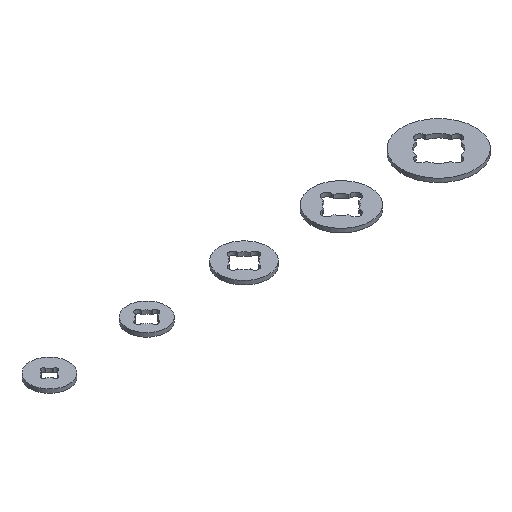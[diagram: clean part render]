
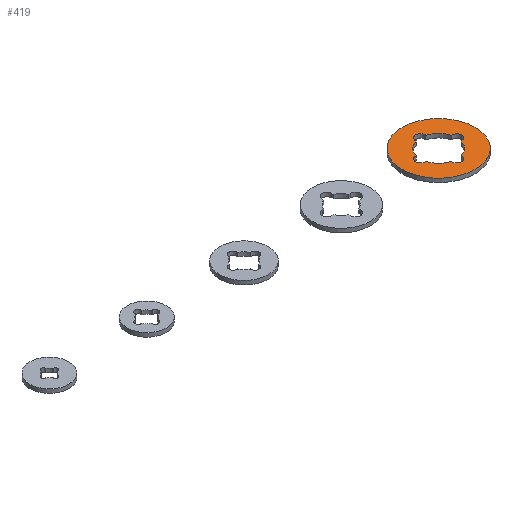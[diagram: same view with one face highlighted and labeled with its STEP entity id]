
A CAD part, isometric view. The second image highlights one B-rep face of the part: STEP entity #419.
In plain terms, the highlighted planar face has unit normal (0, 0, 1).
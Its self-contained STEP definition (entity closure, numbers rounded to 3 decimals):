
#42 = CARTESIAN_POINT ( 'NONE',  ( 0.991, -3.617, 0.8 ) ) ;
#52 = EDGE_CURVE ( 'NONE', #2605, #1581, #2609, .T. ) ;
#82 = ORIENTED_EDGE ( 'NONE', *, *, #1552, .F. ) ;
#98 = DIRECTION ( 'NONE',  ( 1., 0., 0. ) ) ;
#158 = VERTEX_POINT ( 'NONE', #1632 ) ;
#163 = ORIENTED_EDGE ( 'NONE', *, *, #229, .T. ) ;
#229 = EDGE_CURVE ( 'NONE', #2401, #1093, #3285, .T. ) ;
#237 = CIRCLE ( 'NONE', #1231, 1. ) ;
#247 = EDGE_CURVE ( 'NONE', #2046, #2605, #1752, .T. ) ;
#303 = ORIENTED_EDGE ( 'NONE', *, *, #2562, .F. ) ;
#305 = DIRECTION ( 'NONE',  ( 1., 0., 0. ) ) ;
#358 = VERTEX_POINT ( 'NONE', #3144 ) ;
#387 = DIRECTION ( 'NONE',  ( 1., 0., 0. ) ) ;
#405 = CIRCLE ( 'NONE', #2755, 3.75 ) ;
#413 = ORIENTED_EDGE ( 'NONE', *, *, #3477, .F. ) ;
#419 = ADVANCED_FACE ( 'NONE', ( #1277, #2101 ), #2945, .T. ) ;
#444 = CARTESIAN_POINT ( 'NONE',  ( 0., 0., 0.8 ) ) ;
#478 = DIRECTION ( 'NONE',  ( 0., 0., 1. ) ) ;
#549 = DIRECTION ( 'NONE',  ( 1., 0., 0. ) ) ;
#569 = DIRECTION ( 'NONE',  ( 0., 0., 1. ) ) ;
#594 = CARTESIAN_POINT ( 'NONE',  ( 0., 3.75, 0.8 ) ) ;
#598 = EDGE_CURVE ( 'NONE', #2097, #2046, #2291, .T. ) ;
#620 = DIRECTION ( 'NONE',  ( 1., 0., 0. ) ) ;
#681 = CARTESIAN_POINT ( 'NONE',  ( 3.617, 0.991, 0.8 ) ) ;
#691 = ORIENTED_EDGE ( 'NONE', *, *, #1096, .F. ) ;
#705 = AXIS2_PLACEMENT_3D ( 'NONE', #3070, #2196, #1181 ) ;
#711 = AXIS2_PLACEMENT_3D ( 'NONE', #2762, #3328, #305 ) ;
#716 = CARTESIAN_POINT ( 'NONE',  ( 3.75, 0., 0.8 ) ) ;
#840 = ORIENTED_EDGE ( 'NONE', *, *, #2282, .F. ) ;
#860 = ORIENTED_EDGE ( 'NONE', *, *, #1301, .F. ) ;
#901 = ORIENTED_EDGE ( 'NONE', *, *, #1904, .T. ) ;
#906 = DIRECTION ( 'NONE',  ( 1., 0., 0. ) ) ;
#911 = CARTESIAN_POINT ( 'NONE',  ( 7.5, 0., 0.8 ) ) ;
#934 = CIRCLE ( 'NONE', #3444, 3.75 ) ;
#946 = CARTESIAN_POINT ( 'NONE',  ( 0., 0., 0.8 ) ) ;
#958 = DIRECTION ( 'NONE',  ( 0., 0., 1. ) ) ;
#974 = DIRECTION ( 'NONE',  ( 1., 0., 0. ) ) ;
#1029 = ORIENTED_EDGE ( 'NONE', *, *, #1620, .F. ) ;
#1058 = AXIS2_PLACEMENT_3D ( 'NONE', #716, #1274, #974 ) ;
#1093 = VERTEX_POINT ( 'NONE', #911 ) ;
#1096 = EDGE_CURVE ( 'NONE', #158, #1318, #405, .T. ) ;
#1181 = DIRECTION ( 'NONE',  ( 1., 0., 0. ) ) ;
#1189 = DIRECTION ( 'NONE',  ( 1., 0., 0. ) ) ;
#1193 = ORIENTED_EDGE ( 'NONE', *, *, #2612, .F. ) ;
#1231 = AXIS2_PLACEMENT_3D ( 'NONE', #1786, #1256, #3432 ) ;
#1237 = AXIS2_PLACEMENT_3D ( 'NONE', #1452, #3008, #2230 ) ;
#1256 = DIRECTION ( 'NONE',  ( 0., 0., 1. ) ) ;
#1274 = DIRECTION ( 'NONE',  ( 0., 0., 1. ) ) ;
#1277 = FACE_BOUND ( 'NONE', #3434, .T. ) ;
#1287 = CIRCLE ( 'NONE', #1740, 1. ) ;
#1301 = EDGE_CURVE ( 'NONE', #1581, #3038, #934, .T. ) ;
#1318 = VERTEX_POINT ( 'NONE', #3458 ) ;
#1332 = ORIENTED_EDGE ( 'NONE', *, *, #3402, .F. ) ;
#1430 = CARTESIAN_POINT ( 'NONE',  ( 3.617, -0.991, 0.8 ) ) ;
#1452 = CARTESIAN_POINT ( 'NONE',  ( 0., -3.75, 0.8 ) ) ;
#1453 = AXIS2_PLACEMENT_3D ( 'NONE', #3407, #958, #1189 ) ;
#1454 = CARTESIAN_POINT ( 'NONE',  ( 0., -3.75, 0.8 ) ) ;
#1491 = ORIENTED_EDGE ( 'NONE', *, *, #598, .F. ) ;
#1552 = EDGE_CURVE ( 'NONE', #3232, #3303, #3261, .T. ) ;
#1581 = VERTEX_POINT ( 'NONE', #681 ) ;
#1620 = EDGE_CURVE ( 'NONE', #358, #3232, #2069, .T. ) ;
#1631 = ORIENTED_EDGE ( 'NONE', *, *, #2549, .F. ) ;
#1632 = CARTESIAN_POINT ( 'NONE',  ( -3.617, -0.991, 0.8 ) ) ;
#1693 = CARTESIAN_POINT ( 'NONE',  ( -0.991, 3.617, 0.8 ) ) ;
#1740 = AXIS2_PLACEMENT_3D ( 'NONE', #2499, #569, #1915 ) ;
#1747 = CARTESIAN_POINT ( 'NONE',  ( 1., 3.75, 0.8 ) ) ;
#1752 = CIRCLE ( 'NONE', #2323, 3.75 ) ;
#1786 = CARTESIAN_POINT ( 'NONE',  ( 0., -3.75, 0.8 ) ) ;
#1843 = DIRECTION ( 'NONE',  ( 0., 0., 1. ) ) ;
#1904 = EDGE_CURVE ( 'NONE', #1093, #2401, #2414, .T. ) ;
#1915 = DIRECTION ( 'NONE',  ( 1., 0., 0. ) ) ;
#1916 = CARTESIAN_POINT ( 'NONE',  ( 0.991, 3.617, 0.8 ) ) ;
#1961 = AXIS2_PLACEMENT_3D ( 'NONE', #594, #3040, #387 ) ;
#2000 = ORIENTED_EDGE ( 'NONE', *, *, #247, .F. ) ;
#2030 = EDGE_LOOP ( 'NONE', ( #163, #901 ) ) ;
#2046 = VERTEX_POINT ( 'NONE', #42 ) ;
#2058 = DIRECTION ( 'NONE',  ( 0., 0., 1. ) ) ;
#2069 = CIRCLE ( 'NONE', #1453, 1. ) ;
#2097 = VERTEX_POINT ( 'NONE', #2474 ) ;
#2101 = FACE_OUTER_BOUND ( 'NONE', #2030, .T. ) ;
#2125 = CIRCLE ( 'NONE', #705, 1. ) ;
#2138 = CARTESIAN_POINT ( 'NONE',  ( -7.5, 0., 0.8 ) ) ;
#2196 = DIRECTION ( 'NONE',  ( 0., 0., 1. ) ) ;
#2210 = VERTEX_POINT ( 'NONE', #2848 ) ;
#2230 = DIRECTION ( 'NONE',  ( 1., 0., 0. ) ) ;
#2282 = EDGE_CURVE ( 'NONE', #2210, #2097, #237, .T. ) ;
#2291 = CIRCLE ( 'NONE', #1237, 1. ) ;
#2323 = AXIS2_PLACEMENT_3D ( 'NONE', #3409, #2532, #906 ) ;
#2401 = VERTEX_POINT ( 'NONE', #2138 ) ;
#2414 = CIRCLE ( 'NONE', #2924, 7.5 ) ;
#2466 = ORIENTED_EDGE ( 'NONE', *, *, #52, .F. ) ;
#2474 = CARTESIAN_POINT ( 'NONE',  ( 1., -3.75, 0.8 ) ) ;
#2484 = AXIS2_PLACEMENT_3D ( 'NONE', #1454, #3340, #2803 ) ;
#2495 = AXIS2_PLACEMENT_3D ( 'NONE', #3424, #2058, #2554 ) ;
#2499 = CARTESIAN_POINT ( 'NONE',  ( -3.75, 0., 0.8 ) ) ;
#2532 = DIRECTION ( 'NONE',  ( 0., 0., 1. ) ) ;
#2539 = AXIS2_PLACEMENT_3D ( 'NONE', #3091, #2566, #98 ) ;
#2549 = EDGE_CURVE ( 'NONE', #3038, #3183, #2770, .T. ) ;
#2554 = DIRECTION ( 'NONE',  ( 1., 0., 0. ) ) ;
#2562 = EDGE_CURVE ( 'NONE', #3303, #3516, #1287, .T. ) ;
#2566 = DIRECTION ( 'NONE',  ( 0., 0., 1. ) ) ;
#2605 = VERTEX_POINT ( 'NONE', #1430 ) ;
#2609 = CIRCLE ( 'NONE', #1058, 1. ) ;
#2612 = EDGE_CURVE ( 'NONE', #3183, #358, #3339, .T. ) ;
#2648 = CIRCLE ( 'NONE', #2484, 1. ) ;
#2713 = CARTESIAN_POINT ( 'NONE',  ( -3.617, 0.991, 0.8 ) ) ;
#2749 = CARTESIAN_POINT ( 'NONE',  ( -4.75, 0., 0.8 ) ) ;
#2755 = AXIS2_PLACEMENT_3D ( 'NONE', #946, #3357, #620 ) ;
#2762 = CARTESIAN_POINT ( 'NONE',  ( 0., 3.75, 0.8 ) ) ;
#2770 = CIRCLE ( 'NONE', #1961, 1. ) ;
#2803 = DIRECTION ( 'NONE',  ( 1., 0., 0. ) ) ;
#2848 = CARTESIAN_POINT ( 'NONE',  ( -1., -3.75, 0.8 ) ) ;
#2885 = DIRECTION ( 'NONE',  ( 0., 0., 1. ) ) ;
#2899 = DIRECTION ( 'NONE',  ( 1., 0., 0. ) ) ;
#2924 = AXIS2_PLACEMENT_3D ( 'NONE', #3470, #478, #549 ) ;
#2945 = PLANE ( 'NONE',  #3348 ) ;
#3008 = DIRECTION ( 'NONE',  ( 0., 0., 1. ) ) ;
#3038 = VERTEX_POINT ( 'NONE', #1916 ) ;
#3040 = DIRECTION ( 'NONE',  ( 0., 0., 1. ) ) ;
#3070 = CARTESIAN_POINT ( 'NONE',  ( -3.75, 0., 0.8 ) ) ;
#3091 = CARTESIAN_POINT ( 'NONE',  ( 0., 0., 0.8 ) ) ;
#3144 = CARTESIAN_POINT ( 'NONE',  ( -1., 3.75, 0.8 ) ) ;
#3164 = CARTESIAN_POINT ( 'NONE',  ( 0., 0., 0.8 ) ) ;
#3174 = DIRECTION ( 'NONE',  ( 1., 0., 0. ) ) ;
#3183 = VERTEX_POINT ( 'NONE', #1747 ) ;
#3232 = VERTEX_POINT ( 'NONE', #1693 ) ;
#3261 = CIRCLE ( 'NONE', #2539, 3.75 ) ;
#3285 = CIRCLE ( 'NONE', #2495, 7.5 ) ;
#3303 = VERTEX_POINT ( 'NONE', #2713 ) ;
#3328 = DIRECTION ( 'NONE',  ( 0., 0., 1. ) ) ;
#3339 = CIRCLE ( 'NONE', #711, 1. ) ;
#3340 = DIRECTION ( 'NONE',  ( 0., 0., 1. ) ) ;
#3348 = AXIS2_PLACEMENT_3D ( 'NONE', #444, #2885, #3174 ) ;
#3357 = DIRECTION ( 'NONE',  ( 0., 0., 1. ) ) ;
#3402 = EDGE_CURVE ( 'NONE', #3516, #158, #2125, .T. ) ;
#3407 = CARTESIAN_POINT ( 'NONE',  ( 0., 3.75, 0.8 ) ) ;
#3409 = CARTESIAN_POINT ( 'NONE',  ( 0., 0., 0.8 ) ) ;
#3424 = CARTESIAN_POINT ( 'NONE',  ( 0., 0., 0.8 ) ) ;
#3432 = DIRECTION ( 'NONE',  ( 1., 0., 0. ) ) ;
#3434 = EDGE_LOOP ( 'NONE', ( #1631, #860, #2466, #2000, #1491, #840, #413, #691, #1332, #303, #82, #1029, #1193 ) ) ;
#3444 = AXIS2_PLACEMENT_3D ( 'NONE', #3164, #1843, #2899 ) ;
#3458 = CARTESIAN_POINT ( 'NONE',  ( -0.991, -3.617, 0.8 ) ) ;
#3470 = CARTESIAN_POINT ( 'NONE',  ( 0., 0., 0.8 ) ) ;
#3477 = EDGE_CURVE ( 'NONE', #1318, #2210, #2648, .T. ) ;
#3516 = VERTEX_POINT ( 'NONE', #2749 ) ;
